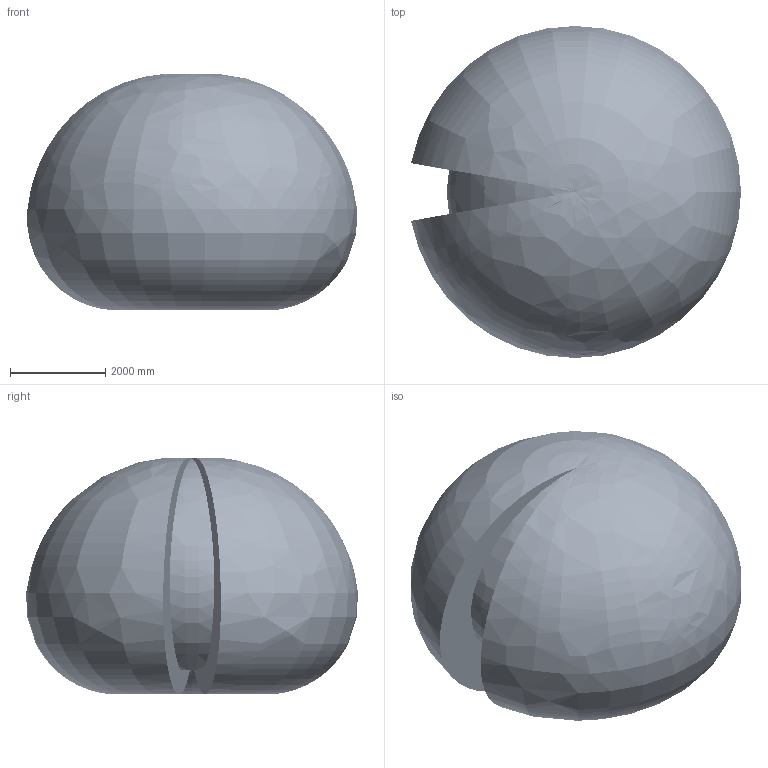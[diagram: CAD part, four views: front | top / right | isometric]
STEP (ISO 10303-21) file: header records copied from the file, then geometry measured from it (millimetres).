
FILE_DESCRIPTION (( 'STEP AP214' ), '1' );
FILE_NAME ('IRB6760-MH3_150kg-350_OC_00_ASM_CAD.step', '2025-09-30T13:10:59', ( '' ), ( '' ), 'SwSTEP 2.0', 'SolidWorks 2024', '' );
FILE_SCHEMA (( 'AUTOMOTIVE_DESIGN' ));
Length unit declared in the file: millimetre
Products named in the file (19): IRB6760_All_OC_00_CYL_CAD; IRB6760_All_OC_00_LINK02m_CABLE; IRB6760_All-350_OC_00_Working-envelope; IRB6760_All_OC_00_LINK02_CAD; IRB6760-MH3_All_OC_00_LINK02_CABLE; IRB6760_All_OC_00_LINK03m_CABLE; IRB6760-MH3_All_OC_00_LINK03b_CABLE; IRB6760_All-350_OC_00_LINK04_CAD; IRB6760_All-350_OC_00_LINK05_CAD; IRB6760-MH3_All_OC_00_LINK03a_CABLE; IRB6760_All_OC_00_ROD_CAD; IRB6760-MH3_All_OC_00_LINK01_CABLE; IRB6760-MH3_150kg-350-OC_00_LINK04_CABLE; IRB6760_All_OC_00_LINK01_CAD; IRB6760_All_OC_00_BASE_CAD; IRB6760_All_OC_00_LINK03_CAD; IRB6760_All_OC_00_LINK01m_CABLE; IRB6760-MH3_150kg-350_OC_00_ASM_CAD; IRB6760_All-350_OC_00_LINK06_CAD
Assembly tree (18 placements, depth 2):
  IRB6760-MH3_150kg-350_OC_00_ASM_CAD
    IRB6760_All_OC_00_BASE_CAD
    IRB6760_All_OC_00_LINK01_CAD
    IRB6760_All_OC_00_LINK02_CAD
    IRB6760_All_OC_00_LINK03_CAD
    IRB6760_All_OC_00_CYL_CAD
    IRB6760_All_OC_00_ROD_CAD
    IRB6760_All-350_OC_00_LINK04_CAD
    IRB6760_All-350_OC_00_LINK05_CAD
    IRB6760_All-350_OC_00_LINK06_CAD
    IRB6760-MH3_All_OC_00_LINK01_CABLE
    IRB6760-MH3_All_OC_00_LINK02_CABLE
    IRB6760-MH3_All_OC_00_LINK03a_CABLE
    IRB6760-MH3_All_OC_00_LINK03b_CABLE
    IRB6760_All_OC_00_LINK02m_CABLE
    IRB6760_All_OC_00_LINK03m_CABLE
    IRB6760_All_OC_00_LINK01m_CABLE
    IRB6760-MH3_150kg-350-OC_00_LINK04_CABLE
    IRB6760_All-350_OC_00_Working-envelope
Bounding box: 6942.93 x 6985.68 x 4982.87 mm (x, y, z)
Volume: 123003382851 mm3; surface area: 185598622.3 mm2
Topology: 19 solids, 28 shells, 9005 faces, 23110 edges, 14744 vertices
Faces by surface type: plane 4263, cylinder 2470, cone 1321, bspline 705, torus 233, sphere 13
Entity records: 479743 total; most frequent: CARTESIAN_POINT 183280, ORIENTED_EDGE 45848, DIRECTION 42231, EDGE_CURVE 22924, AXIS2_PLACEMENT_3D 15460, VERTEX_POINT 14742, VECTOR 11311, LINE 11311
